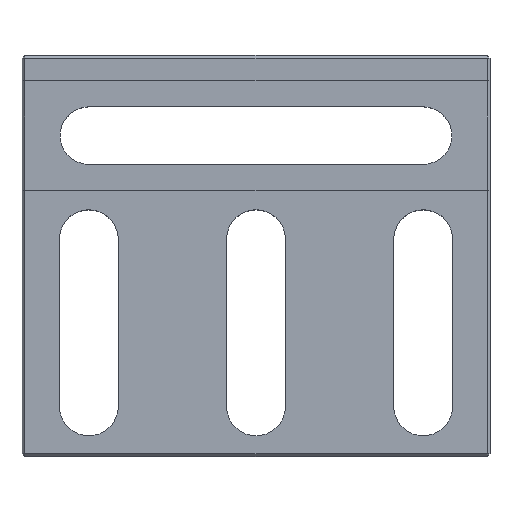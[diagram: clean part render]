
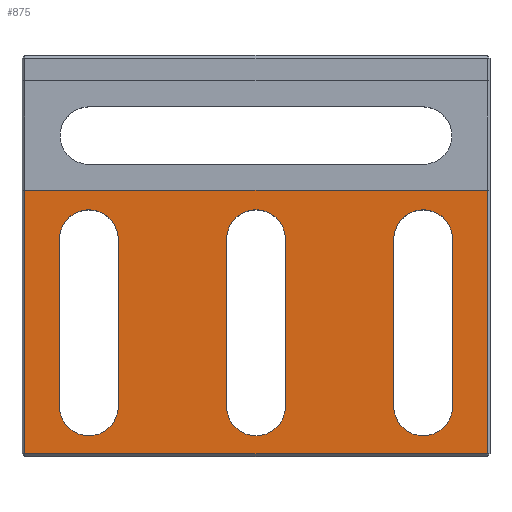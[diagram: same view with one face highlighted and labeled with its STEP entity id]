
A CAD part, top view. The second image highlights one B-rep face of the part: STEP entity #875.
In plain terms, the highlighted planar face has unit normal (0, 0, 1).
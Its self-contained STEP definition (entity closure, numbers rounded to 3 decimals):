
#31=FACE_BOUND('',#153,.T.);
#32=FACE_BOUND('',#154,.T.);
#33=FACE_BOUND('',#155,.T.);
#48=CIRCLE('',#947,2.2);
#49=CIRCLE('',#950,2.2);
#50=CIRCLE('',#954,2.2);
#51=CIRCLE('',#957,2.2);
#52=CIRCLE('',#961,2.2);
#53=CIRCLE('',#964,2.2);
#99=FACE_OUTER_BOUND('',#152,.T.);
#152=EDGE_LOOP('',(#773,#774,#775,#776));
#153=EDGE_LOOP('',(#777,#778,#779,#780));
#154=EDGE_LOOP('',(#781,#782,#783,#784));
#155=EDGE_LOOP('',(#785,#786,#787,#788));
#218=LINE('',#1343,#318);
#219=LINE('',#1345,#319);
#222=LINE('',#1350,#322);
#241=LINE('',#1404,#341);
#245=LINE('',#1414,#345);
#247=LINE('',#1419,#347);
#250=LINE('',#1426,#350);
#252=LINE('',#1432,#352);
#253=LINE('',#1435,#353);
#255=LINE('',#1441,#355);
#318=VECTOR('',#1084,10.);
#319=VECTOR('',#1087,10.);
#322=VECTOR('',#1092,10.);
#341=VECTOR('',#1151,10.);
#345=VECTOR('',#1161,10.);
#347=VECTOR('',#1165,10.);
#350=VECTOR('',#1174,10.);
#352=VECTOR('',#1182,10.);
#353=VECTOR('',#1185,10.);
#355=VECTOR('',#1193,10.);
#403=VERTEX_POINT('',#1325);
#406=VERTEX_POINT('',#1334);
#407=VERTEX_POINT('',#1341);
#408=VERTEX_POINT('',#1348);
#421=VERTEX_POINT('',#1396);
#422=VERTEX_POINT('',#1398);
#423=VERTEX_POINT('',#1402);
#424=VERTEX_POINT('',#1406);
#425=VERTEX_POINT('',#1408);
#426=VERTEX_POINT('',#1412);
#427=VERTEX_POINT('',#1416);
#428=VERTEX_POINT('',#1418);
#429=VERTEX_POINT('',#1422);
#430=VERTEX_POINT('',#1428);
#431=VERTEX_POINT('',#1434);
#432=VERTEX_POINT('',#1440);
#502=EDGE_CURVE('',#407,#406,#218,.T.);
#503=EDGE_CURVE('',#406,#403,#219,.T.);
#506=EDGE_CURVE('',#403,#408,#222,.T.);
#529=EDGE_CURVE('',#422,#421,#48,.T.);
#532=EDGE_CURVE('',#421,#423,#241,.T.);
#534=EDGE_CURVE('',#425,#424,#49,.T.);
#537=EDGE_CURVE('',#424,#426,#245,.T.);
#539=EDGE_CURVE('',#428,#427,#247,.T.);
#542=EDGE_CURVE('',#427,#429,#50,.T.);
#543=EDGE_CURVE('',#407,#408,#250,.T.);
#544=EDGE_CURVE('',#430,#428,#51,.T.);
#546=EDGE_CURVE('',#429,#430,#252,.T.);
#547=EDGE_CURVE('',#431,#425,#253,.T.);
#549=EDGE_CURVE('',#426,#431,#52,.T.);
#550=EDGE_CURVE('',#432,#422,#255,.T.);
#552=EDGE_CURVE('',#423,#432,#53,.T.);
#773=ORIENTED_EDGE('',*,*,#502,.F.);
#774=ORIENTED_EDGE('',*,*,#543,.T.);
#775=ORIENTED_EDGE('',*,*,#506,.F.);
#776=ORIENTED_EDGE('',*,*,#503,.F.);
#777=ORIENTED_EDGE('',*,*,#532,.T.);
#778=ORIENTED_EDGE('',*,*,#552,.T.);
#779=ORIENTED_EDGE('',*,*,#550,.T.);
#780=ORIENTED_EDGE('',*,*,#529,.T.);
#781=ORIENTED_EDGE('',*,*,#537,.T.);
#782=ORIENTED_EDGE('',*,*,#549,.T.);
#783=ORIENTED_EDGE('',*,*,#547,.T.);
#784=ORIENTED_EDGE('',*,*,#534,.T.);
#785=ORIENTED_EDGE('',*,*,#542,.T.);
#786=ORIENTED_EDGE('',*,*,#546,.T.);
#787=ORIENTED_EDGE('',*,*,#544,.T.);
#788=ORIENTED_EDGE('',*,*,#539,.T.);
#828=PLANE('',#965);
#875=ADVANCED_FACE('',(#99,#31,#32,#33),#828,.T.);
#947=AXIS2_PLACEMENT_3D('',#1399,#1145,#1146);
#950=AXIS2_PLACEMENT_3D('',#1409,#1155,#1156);
#954=AXIS2_PLACEMENT_3D('',#1424,#1170,#1171);
#957=AXIS2_PLACEMENT_3D('',#1429,#1177,#1178);
#961=AXIS2_PLACEMENT_3D('',#1438,#1189,#1190);
#964=AXIS2_PLACEMENT_3D('',#1444,#1197,#1198);
#965=AXIS2_PLACEMENT_3D('',#1445,#1199,#1200);
#1084=DIRECTION('',(0.,-1.,0.));
#1087=DIRECTION('',(-1.,0.,0.));
#1092=DIRECTION('',(0.,1.,0.));
#1145=DIRECTION('center_axis',(0.,0.,-1.));
#1146=DIRECTION('ref_axis',(1.,0.,0.));
#1151=DIRECTION('',(0.,1.,0.));
#1155=DIRECTION('center_axis',(0.,0.,-1.));
#1156=DIRECTION('ref_axis',(-1.,0.,0.));
#1161=DIRECTION('',(0.,-1.,0.));
#1165=DIRECTION('',(0.,1.,0.));
#1170=DIRECTION('center_axis',(0.,0.,-1.));
#1171=DIRECTION('ref_axis',(-1.,0.,0.));
#1174=DIRECTION('',(-1.,0.,0.));
#1177=DIRECTION('center_axis',(0.,0.,-1.));
#1178=DIRECTION('ref_axis',(1.,0.,0.));
#1182=DIRECTION('',(0.,-1.,0.));
#1185=DIRECTION('',(0.,1.,0.));
#1189=DIRECTION('center_axis',(0.,0.,-1.));
#1190=DIRECTION('ref_axis',(1.,0.,0.));
#1193=DIRECTION('',(0.,-1.,0.));
#1197=DIRECTION('center_axis',(0.,0.,-1.));
#1198=DIRECTION('ref_axis',(-1.,0.,0.));
#1199=DIRECTION('center_axis',(0.,0.,1.));
#1200=DIRECTION('ref_axis',(1.,0.,0.));
#1325=CARTESIAN_POINT('',(-17.3,-14.8,5.8));
#1334=CARTESIAN_POINT('',(17.3,-14.8,5.8));
#1341=CARTESIAN_POINT('',(17.3,4.9,5.8));
#1343=CARTESIAN_POINT('',(17.3,4.025,5.8));
#1345=CARTESIAN_POINT('',(-8.75,-14.8,5.8));
#1348=CARTESIAN_POINT('',(-17.3,4.9,5.8));
#1350=CARTESIAN_POINT('',(-17.3,4.975,5.8));
#1396=CARTESIAN_POINT('',(-14.7,-11.25,5.8));
#1398=CARTESIAN_POINT('',(-10.3,-11.25,5.8));
#1399=CARTESIAN_POINT('Origin',(-12.5,-11.25,5.8));
#1402=CARTESIAN_POINT('',(-14.7,1.25,5.8));
#1404=CARTESIAN_POINT('',(-14.7,-11.25,5.8));
#1406=CARTESIAN_POINT('',(14.7,1.25,5.8));
#1408=CARTESIAN_POINT('',(10.3,1.25,5.8));
#1409=CARTESIAN_POINT('Origin',(12.5,1.25,5.8));
#1412=CARTESIAN_POINT('',(14.7,-11.25,5.8));
#1414=CARTESIAN_POINT('',(14.7,1.25,5.8));
#1416=CARTESIAN_POINT('',(-2.2,1.25,5.8));
#1418=CARTESIAN_POINT('',(-2.2,-11.25,5.8));
#1419=CARTESIAN_POINT('',(-2.2,-13.45,5.8));
#1422=CARTESIAN_POINT('',(2.2,1.25,5.8));
#1424=CARTESIAN_POINT('Origin',(0.,1.25,5.8));
#1426=CARTESIAN_POINT('',(17.5,4.9,5.8));
#1428=CARTESIAN_POINT('',(2.2,-11.25,5.8));
#1429=CARTESIAN_POINT('Origin',(0.,-11.25,5.8));
#1432=CARTESIAN_POINT('',(2.2,3.45,5.8));
#1434=CARTESIAN_POINT('',(10.3,-11.25,5.8));
#1435=CARTESIAN_POINT('',(10.3,-11.25,5.8));
#1438=CARTESIAN_POINT('Origin',(12.5,-11.25,5.8));
#1440=CARTESIAN_POINT('',(-10.3,1.25,5.8));
#1441=CARTESIAN_POINT('',(-10.3,1.25,5.8));
#1444=CARTESIAN_POINT('Origin',(-12.5,1.25,5.8));
#1445=CARTESIAN_POINT('Origin',(0.,-5.05,5.8));
